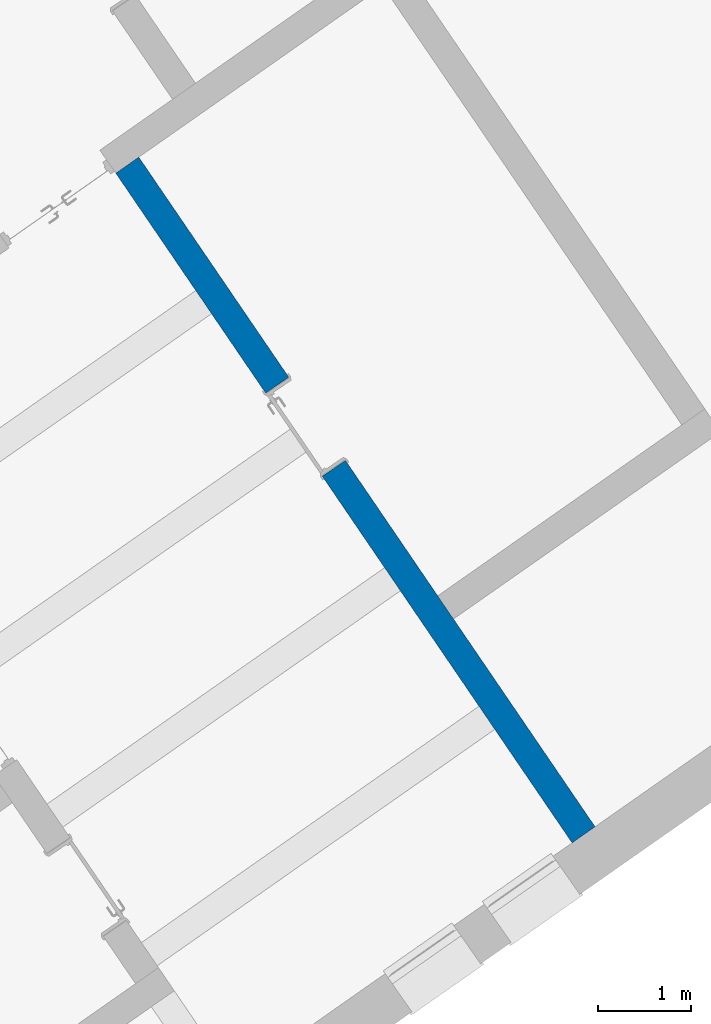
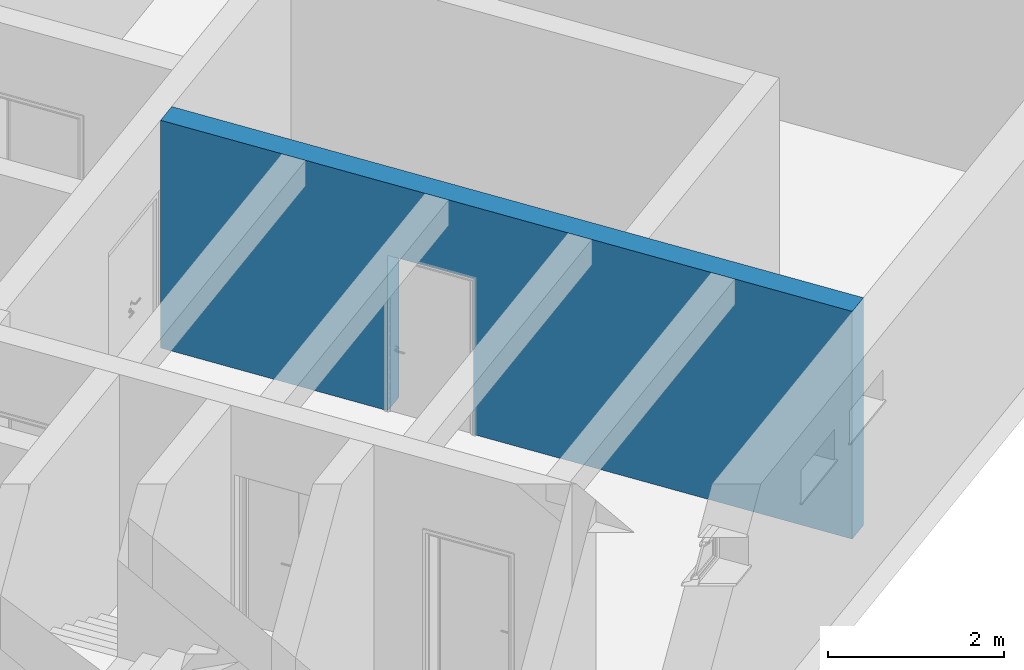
# One storey, part 45 of 112: 1 wall, 1 opening.
"""IFC2X3 building model written with IfcOpenShell, lengths in millimetres."""

from ifc_helpers import new_model, entity, si_unit, converted_unit, derived_unit, direction, frame, frame_2d, origin, place, context, subcontext, project, spatial, polyline, rectangle, outline, extrude, material, layer, layer_set, layer_usage, type_object, element, save


model = new_model("IFC2X3")

# Units and contexts
model_context = context("Model", 3, precision=0.01, world=origin(), true_north=direction((6.123031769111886e-17, 1.0)))
body_context = subcontext(model_context, "Body", "Model", "MODEL_VIEW")
ifc_project = project(units=[si_unit("LENGTHUNIT", "METRE", prefix="MILLI"), si_unit("AREAUNIT", "SQUARE_METRE"), si_unit("VOLUMEUNIT", "CUBIC_METRE"), converted_unit("PLANEANGLEUNIT", "DEGREE", entity("IfcRatioMeasure", 0.017453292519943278), si_unit("PLANEANGLEUNIT", "RADIAN"), dimensions=[0, 0, 0, 0, 0, 0, 0]), si_unit("MASSUNIT", "GRAM", prefix="KILO"), derived_unit("MASSDENSITYUNIT", [(si_unit("MASSUNIT", "GRAM", prefix="KILO"), 1), (si_unit("LENGTHUNIT", "METRE"), -3)]), derived_unit("MOMENTOFINERTIAUNIT", [(si_unit("LENGTHUNIT", "METRE"), 4)]), si_unit("TIMEUNIT", "SECOND"), si_unit("FREQUENCYUNIT", "HERTZ"), si_unit("THERMODYNAMICTEMPERATUREUNIT", "DEGREE_CELSIUS"), derived_unit("THERMALTRANSMITTANCEUNIT", [(si_unit("MASSUNIT", "GRAM", prefix="KILO"), 1), (si_unit("THERMODYNAMICTEMPERATUREUNIT", "KELVIN"), -1), (si_unit("TIMEUNIT", "SECOND"), -3)]), derived_unit("THERMALCONDUCTANCEUNIT", [(si_unit("MASSUNIT", "GRAM", prefix="KILO"), 1), (si_unit("LENGTHUNIT", "METRE"), 1), (si_unit("THERMODYNAMICTEMPERATUREUNIT", "KELVIN"), -1), (si_unit("TIMEUNIT", "SECOND"), -3)]), derived_unit("VOLUMETRICFLOWRATEUNIT", [(si_unit("LENGTHUNIT", "METRE"), 3), (si_unit("TIMEUNIT", "SECOND"), -1)]), derived_unit("MASSFLOWRATEUNIT", [(si_unit("MASSUNIT", "GRAM", prefix="KILO"), 1), (si_unit("TIMEUNIT", "SECOND"), -1)]), derived_unit("ROTATIONALFREQUENCYUNIT", [(si_unit("TIMEUNIT", "SECOND"), -1)]), si_unit("ELECTRICCURRENTUNIT", "AMPERE"), si_unit("ELECTRICVOLTAGEUNIT", "VOLT"), si_unit("POWERUNIT", "WATT"), converted_unit("FORCEUNIT", "KIP", entity("IfcRatioMeasure", 2.088543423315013e-05), si_unit("FORCEUNIT", "NEWTON"), dimensions=[1, 1, -2, 0, 0, 0, 0]), si_unit("ILLUMINANCEUNIT", "LUX"), si_unit("LUMINOUSFLUXUNIT", "LUMEN"), si_unit("LUMINOUSINTENSITYUNIT", "CANDELA"), derived_unit("USERDEFINED", [(si_unit("MASSUNIT", "GRAM", prefix="KILO"), -1), (si_unit("LENGTHUNIT", "METRE"), -2), (si_unit("TIMEUNIT", "SECOND"), 3), (si_unit("LUMINOUSFLUXUNIT", "LUMEN"), 1)]), derived_unit("USERDEFINED", [(si_unit("MASSUNIT", "GRAM", prefix="KILO"), 1), (si_unit("LENGTHUNIT", "METRE"), 3), (si_unit("TIMEUNIT", "SECOND"), -3), (si_unit("ELECTRICCURRENTUNIT", "AMPERE"), -2)]), derived_unit("USERDEFINED", [(si_unit("LENGTHUNIT", "METRE"), 2), (si_unit("TIMEUNIT", "SECOND"), -2)]), derived_unit("SOUNDPOWERUNIT", [(si_unit("MASSUNIT", "GRAM", prefix="KILO"), 1), (si_unit("LENGTHUNIT", "METRE"), 2), (si_unit("TIMEUNIT", "SECOND"), -3)]), derived_unit("SOUNDPRESSUREUNIT", [(si_unit("MASSUNIT", "GRAM", prefix="KILO"), 1), (si_unit("LENGTHUNIT", "METRE"), -1), (si_unit("TIMEUNIT", "SECOND"), -2)]), derived_unit("LINEARVELOCITYUNIT", [(si_unit("LENGTHUNIT", "METRE"), 1), (si_unit("TIMEUNIT", "SECOND"), -1)]), si_unit("PRESSUREUNIT", "PASCAL"), derived_unit("USERDEFINED", [(si_unit("LENGTHUNIT", "METRE"), -2), (si_unit("MASSUNIT", "GRAM", prefix="KILO"), 1), (si_unit("TIMEUNIT", "SECOND"), -2)]), derived_unit("LINEARFORCEUNIT", [(si_unit("MASSUNIT", "GRAM", prefix="KILO"), 1), (si_unit("LENGTHUNIT", "METRE"), 1), (si_unit("TIMEUNIT", "SECOND"), -2), (si_unit("LENGTHUNIT", "METRE"), -1)]), derived_unit("PLANARFORCEUNIT", [(si_unit("MASSUNIT", "GRAM", prefix="KILO"), 1), (si_unit("LENGTHUNIT", "METRE"), 1), (si_unit("TIMEUNIT", "SECOND"), -2), (si_unit("LENGTHUNIT", "METRE"), -2)]), derived_unit("SPECIFICHEATCAPACITYUNIT", [(si_unit("LENGTHUNIT", "METRE"), 2), (si_unit("TIMEUNIT", "SECOND"), -2), (si_unit("THERMODYNAMICTEMPERATUREUNIT", "KELVIN"), -1)]), derived_unit("VAPORPERMEABILITYUNIT", [(si_unit("TIMEUNIT", "SECOND"), 1), (si_unit("LENGTHUNIT", "METRE"), -1)]), derived_unit("DYNAMICVISCOSITYUNIT", [(si_unit("MASSUNIT", "GRAM", prefix="KILO"), 1), (si_unit("LENGTHUNIT", "METRE"), -1), (si_unit("TIMEUNIT", "SECOND"), -1)]), derived_unit("THERMALEXPANSIONCOEFFICIENTUNIT", [(si_unit("THERMODYNAMICTEMPERATUREUNIT", "KELVIN"), -1)])], contexts=[model_context])

# Site, building, storey
site_placement = place(None, frame((0.0, 0.0, 0.0), z_axis=(0.0, 0.0, 1.0), x_axis=(0.8191520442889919, 0.5735764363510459, 0.0)))
site = spatial("IfcSite", under=ifc_project, at=site_placement, Name="Default", CompositionType="ELEMENT")
building_placement = place(site_placement, origin())
building = spatial("IfcBuilding", under=site, at=building_placement, CompositionType="ELEMENT")
storey_placement = place(building_placement, frame((0.0, 0.0, -3600.0)))
storey = spatial("IfcBuildingStorey", under=building, at=storey_placement, Name="0.UG -3.60", CompositionType="ELEMENT", Elevation=-3600.0000000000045)

# Wall, opening
ifc_material = material(Name="Analytical Wall Surface_CJC")
ifc_layer = layer(ifc_material, 300.0)
ifc_layer_set = layer_set([ifc_layer], Name="Basic Wall:Wand_Innen_30")
ifc_layer_usage = layer_usage(ifc_layer_set, "AXIS2", "NEGATIVE", 150.0)
wall_type = type_object("IfcWallType", Name="Basic Wall:Wand_Innen_30", PredefinedType="STANDARD", material=ifc_layer_set)
wall_placement = place(storey_placement, frame((-213001.04957704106, 52569.44947620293, 300.0), z_axis=(0.0, 0.0, 1.0), x_axis=(0.012729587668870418, 0.9999189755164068, 0.0)))
wall = element("IfcWallStandardCase", 1, at=wall_placement, inside=storey, type_object=wall_type, material=ifc_layer_usage, Name="Basic Wall:Wand_Innen_30", ObjectType="Basic Wall:Wand_Innen_30", context=body_context, shape_type="SweptSolid", body=[
    extrude(outline(polyline([(3.8191857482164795, -150.0), (2704.0379695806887, -150.0), (3004.062278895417, -150.0), (8704.524155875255, -150.0), (8700.70497012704, 150.0), (7175.581397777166, 150.0), (6875.557088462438, 150.0), (5375.4355418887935, 150.0), (5075.411232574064, 150.0), (3575.2896860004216, 150.0), (3275.265376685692, 150.0), (1775.1438301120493, 150.0), (1475.1195207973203, 150.0), (0.0, 150.0), (3.8191857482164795, -150.0)])), origin(), (0.0, 0.0, 1.0), 3150.0),
])
opening_placement = place(wall_placement, frame((4763.756090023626, -150.0, 0.0)))
element("IfcOpeningElement", 2, at=opening_placement, cuts=wall, Name="Doors_IntSgl:100x210:1", ObjectType="Opening", context=body_context, shape_type="SweptSolid", body=[
    extrude(rectangle(XDim=2150.000000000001, YDim=1079.9999999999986, at=frame_2d((1075.0000000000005, 539.9999999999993), x_axis=(1.0, 0.0))), frame((0.0, 0.0, 0.0), z_axis=(0.0, 1.0, 0.0), x_axis=(0.0, 0.0, 1.0)), (0.0, 0.0, 1.0), 300.0),
])

save(model, "model.ifc")
